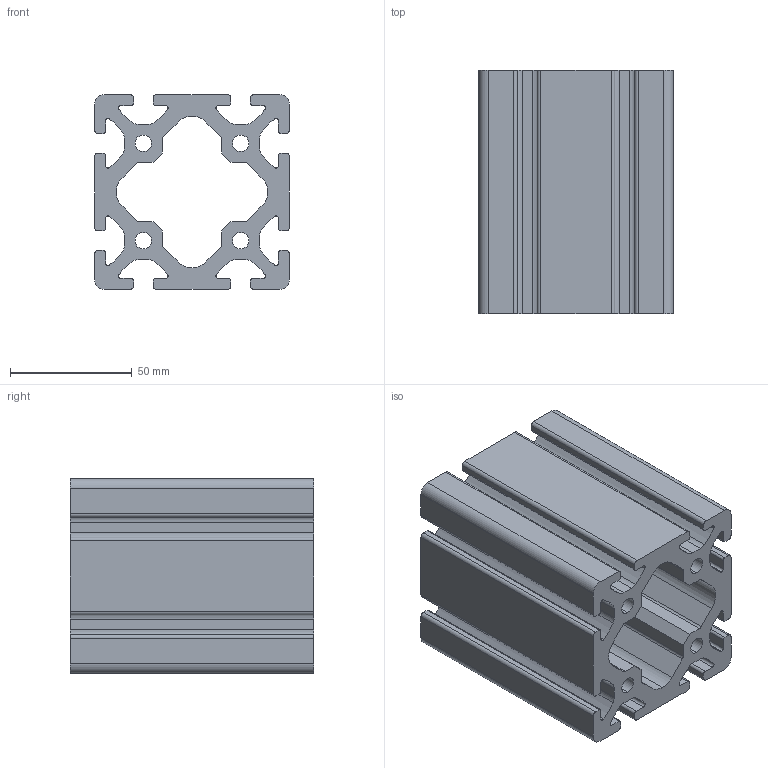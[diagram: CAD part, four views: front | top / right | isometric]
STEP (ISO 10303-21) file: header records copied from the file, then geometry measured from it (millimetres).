
FILE_DESCRIPTION (( 'STEP AP203' ), '1' );
FILE_NAME ('0108P8080S.STEP', '2024-02-29T12:18:25', ( 'Windows-Benutzer' ), ( '' ), 'SwSTEP 2.0', 'SolidWorks 2023', '' );
FILE_SCHEMA (( 'CONFIG_CONTROL_DESIGN' ));
Length unit declared in the file: millimetre
Products named in the file (1): 0108P8080S
Bounding box: 80 x 100 x 80 mm (x, y, z)
Volume: 284639.8 mm3; surface area: 95713.4 mm2
Topology: 1 solids, 1 shells, 183 faces, 543 edges, 362 vertices
Faces by surface type: cylinder 109, plane 74
Entity records: 6312 total; most frequent: DIRECTION 1129, CARTESIAN_POINT 1089, ORIENTED_EDGE 1086, EDGE_CURVE 543, AXIS2_PLACEMENT_3D 402, VERTEX_POINT 362, LINE 325, VECTOR 325
